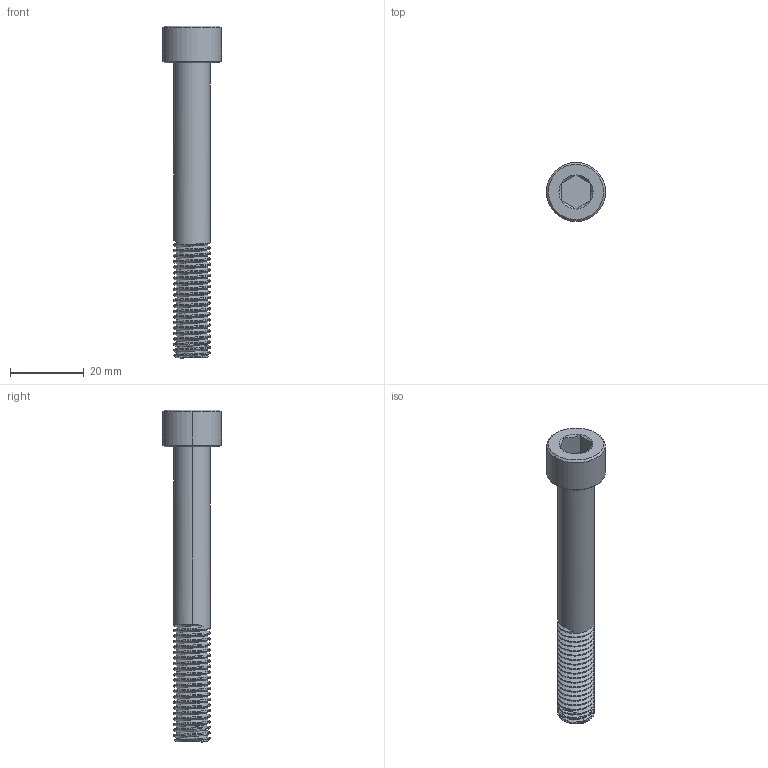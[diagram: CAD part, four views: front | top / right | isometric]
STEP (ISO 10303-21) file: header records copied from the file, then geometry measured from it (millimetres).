
FILE_DESCRIPTION (( 'STEP AP214' ), '1' );
FILE_NAME ('3-897-10080.STEP', '2020-05-21T14:47:51', ( '' ), ( '' ), 'SwSTEP 2.0', 'SolidWorks 2020', '' );
FILE_SCHEMA (( 'AUTOMOTIVE_DESIGN' ));
Length unit declared in the file: millimetre
Products named in the file (1): 3-897-10080
Bounding box: 16 x 16 x 90 mm (x, y, z)
Volume: 7569.9 mm3; surface area: 4148.3 mm2
Topology: 1 solids, 1 shells, 73 faces, 187 edges, 118 vertices
Faces by surface type: cylinder 45, cone 14, plane 12, bspline 2
Entity records: 4426 total; most frequent: CARTESIAN_POINT 2905, ORIENTED_EDGE 374, DIRECTION 251, EDGE_CURVE 187, VERTEX_POINT 118, AXIS2_PLACEMENT_3D 93, EDGE_LOOP 75, ADVANCED_FACE 73
